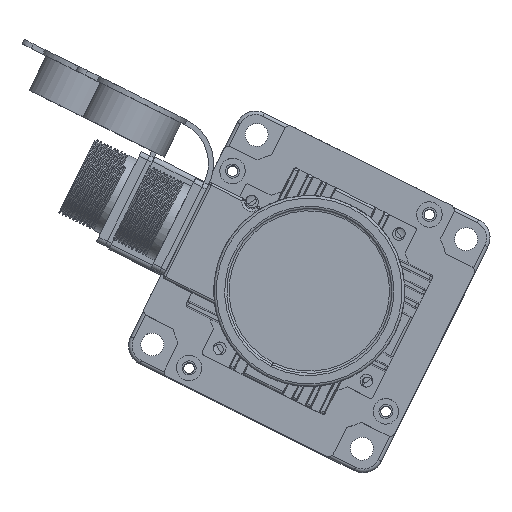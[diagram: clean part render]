
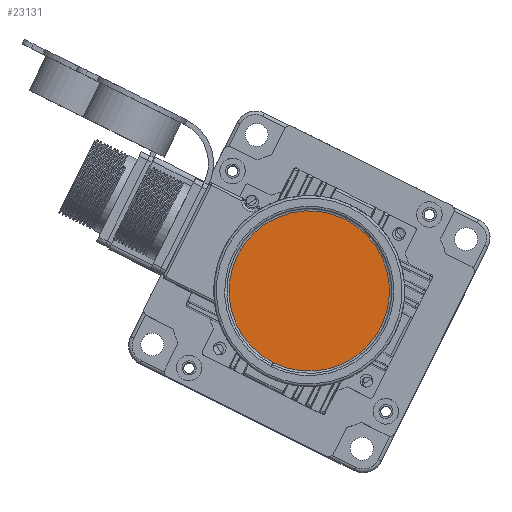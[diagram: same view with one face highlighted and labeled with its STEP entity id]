
A CAD part, top view. The second image highlights one B-rep face of the part: STEP entity #23131.
In plain terms, the highlighted planar face has unit normal (0, 0, 1) as drawn and (0, 0, -1) by its records, which use the part's own axes.
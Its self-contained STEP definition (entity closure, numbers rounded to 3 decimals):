
#1304 = CARTESIAN_POINT ( 'NONE',  ( 31.5, 0., -41.5 ) ) ;
#1672 = FACE_OUTER_BOUND ( 'NONE', #1771, .T. ) ;
#1771 = EDGE_LOOP ( 'NONE', ( #28897, #10080 ) ) ;
#1865 = CIRCLE ( 'NONE', #22073, 31.5 ) ;
#6725 = AXIS2_PLACEMENT_3D ( 'NONE', #45130, #10348, #27828 ) ;
#9291 = DIRECTION ( 'NONE',  ( 0., 0., -1. ) ) ;
#10080 = ORIENTED_EDGE ( 'NONE', *, *, #41393, .T. ) ;
#10348 = DIRECTION ( 'NONE',  ( 0., 0., -1. ) ) ;
#10752 = EDGE_CURVE ( 'NONE', #16389, #26474, #1865, .T. ) ;
#15338 = CIRCLE ( 'NONE', #43465, 31.5 ) ;
#16389 = VERTEX_POINT ( 'NONE', #32960 ) ;
#19479 = CARTESIAN_POINT ( 'NONE',  ( 0., 0., -41.5 ) ) ;
#22073 = AXIS2_PLACEMENT_3D ( 'NONE', #30116, #9291, #33605 ) ;
#22999 = DIRECTION ( 'NONE',  ( -1., 0., 0. ) ) ;
#23131 = ADVANCED_FACE ( 'NONE', ( #1672 ), #41632, .T. ) ;
#26474 = VERTEX_POINT ( 'NONE', #1304 ) ;
#27828 = DIRECTION ( 'NONE',  ( -1., 0., 0. ) ) ;
#28897 = ORIENTED_EDGE ( 'NONE', *, *, #10752, .T. ) ;
#30116 = CARTESIAN_POINT ( 'NONE',  ( 0., 0., -41.5 ) ) ;
#32960 = CARTESIAN_POINT ( 'NONE',  ( -31.5, 0., -41.5 ) ) ;
#33605 = DIRECTION ( 'NONE',  ( -1., 0., 0. ) ) ;
#41393 = EDGE_CURVE ( 'NONE', #26474, #16389, #15338, .T. ) ;
#41632 = PLANE ( 'NONE',  #6725 ) ;
#43465 = AXIS2_PLACEMENT_3D ( 'NONE', #19479, #43761, #22999 ) ;
#43761 = DIRECTION ( 'NONE',  ( 0., 0., -1. ) ) ;
#45130 = CARTESIAN_POINT ( 'NONE',  ( 0., 0., -41.5 ) ) ;
